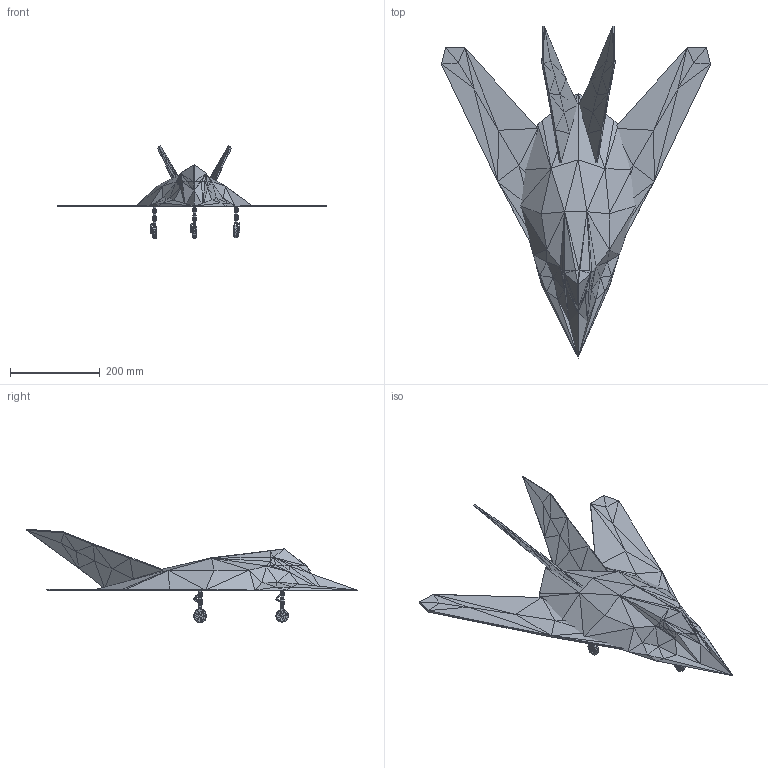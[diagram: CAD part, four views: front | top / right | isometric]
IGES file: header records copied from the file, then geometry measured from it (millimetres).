
Bounding box: 600.32 x 740.04 x 208.61 mm (x, y, z)
Surface area: 478636.7 mm2 (no closed solid volume)
Topology: 0 solids, 0 shells, 1791 faces, 7164 edges, 5373 vertices
Faces by surface type: bspline 1791
